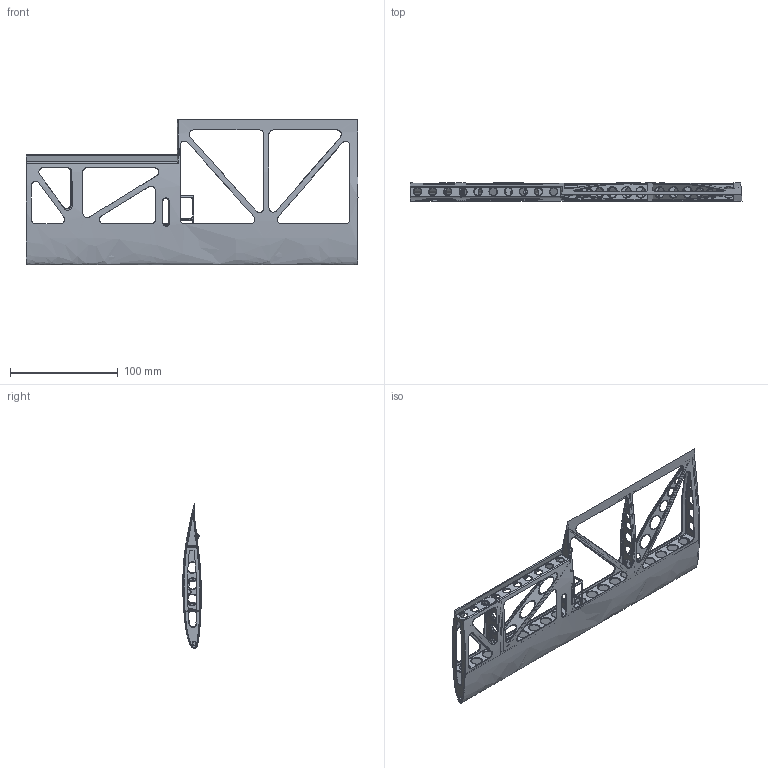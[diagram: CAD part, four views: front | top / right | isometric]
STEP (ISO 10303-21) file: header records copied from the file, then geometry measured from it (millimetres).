
FILE_DESCRIPTION (( 'STEP AP203' ), '1' );
FILE_NAME ('Mirror06-12-06-00-lower Wing(NASA-0413).STEP', '2019-02-25T09:12:20', ( '' ), ( '' ), 'SwSTEP 2.0', 'SolidWorks 2014', '' );
FILE_SCHEMA (( 'CONFIG_CONTROL_DESIGN' ));
Length unit declared in the file: millimetre
Products named in the file (1): Mirror06-12-06-00-lower Wing(NASA-0413)
Bounding box: 307.44 x 17.03 x 134.93 mm (x, y, z)
Volume: 37799 mm3; surface area: 99813 mm2
Topology: 1 solids, 1 shells, 1142 faces, 2883 edges, 1681 vertices
Faces by surface type: bspline 400, cylinder 320, torus 244, plane 132, sphere 42, cone 4
Entity records: 57572 total; most frequent: CARTESIAN_POINT 33119, ORIENTED_EDGE 5654, DIRECTION 4538, EDGE_CURVE 2827, AXIS2_PLACEMENT_3D 1956, VERTEX_POINT 1677, EDGE_LOOP 1314, CIRCLE 1213
